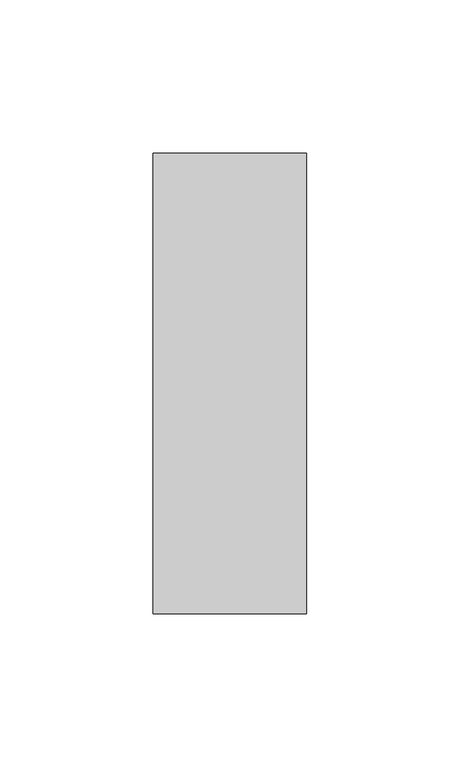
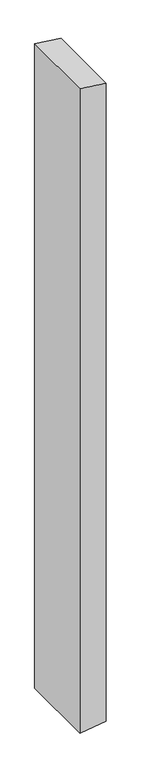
"""IFC4 building model written with IfcOpenShell, lengths in millimetres: member geometry, Прямоугольный импост : 50 x 150 мм."""

from ifc_helpers import new_model, si_unit, frame, origin, place, context, project, spatial, polyline, outline, extrude, source, transform, mapped, element, save


def member_23db2c0a(model_context):
    return source(origin(), model_context, "Body", "SweptSolid", [
        extrude(outline(polyline([(0.0, 0.0), (6.2881727, -50.0), (-1294.9209246, -50.0), (-1288.366919, 0.0), (0.0, 0.0)])), frame((0.0, -75.0, 0.0), z_axis=(0.0, 1.0, 0.0), x_axis=(0.0, 0.0, 1.0)), (0.0, 0.0, 1.0), 150.0),
    ])


if __name__ == "__main__":
    model = new_model("IFC4")
    model_context = context("Model", 3, world=origin())
    ifc_project = project(units=[si_unit("LENGTHUNIT", "METRE", prefix="MILLI")], contexts=[model_context])
    site = spatial("IfcSite", under=ifc_project)
    building = spatial("IfcBuilding", under=site)
    placement = place(None, origin())
    member_shape = member_23db2c0a(model_context)
    element("IfcMember", 1, ObjectType="Прямоугольный импост : 50 x 150 мм", at=placement, inside=building, context=model_context, shape_type="MappedRepresentation", body=[
        mapped(member_shape, transform((0.0, 0.0, 0.0), x_axis=(1.0, 0.0, 0.0), y_axis=(0.0, 1.0, 0.0), z_axis=(0.0, 0.0, 1.0))),
    ])
    save(model, "model.ifc")
